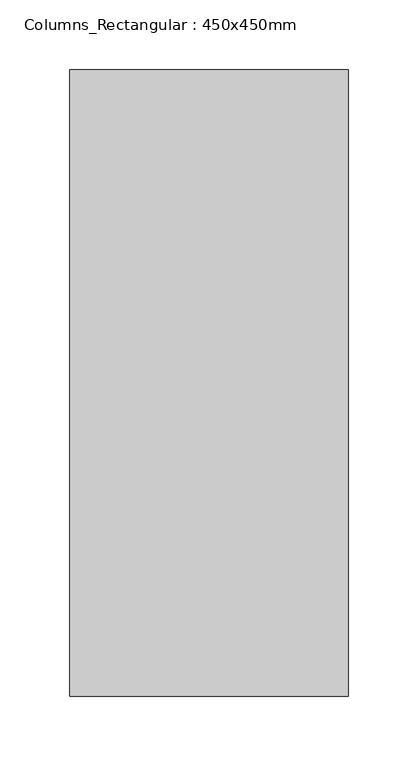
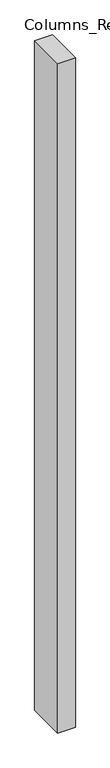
"""IFC4 building model written with IfcOpenShell, lengths in millimetres: column geometry, Columns_Rectangular : 450x450mm."""

from ifc_helpers import new_model, si_unit, frame, origin, place, context, project, spatial, polyline, outline, extrude, source, transform, mapped, element, save


def columns_rectangular_450x450mm_b98eb1ea(model_context):
    return source(origin(), model_context, "Body", "SweptSolid", [
        extrude(outline(polyline([(100.0, -225.0), (-100.0, -225.0), (-100.0, 225.0), (100.0, 225.0), (100.0, -225.0)])), frame((0.0, 0.0, 5800.0), z_axis=(0.0, 0.0, 1.0), x_axis=(1.0, 0.0, 0.0)), (0.0, 0.0, 1.0), 8000.0),
    ])


if __name__ == "__main__":
    model = new_model("IFC4")
    model_context = context("Model", 3, world=origin())
    ifc_project = project(units=[si_unit("LENGTHUNIT", "METRE", prefix="MILLI")], contexts=[model_context])
    site = spatial("IfcSite", under=ifc_project)
    building = spatial("IfcBuilding", under=site)
    placement = place(None, origin())
    columns_rectangular_450x450mm_shape = columns_rectangular_450x450mm_b98eb1ea(model_context)
    element("IfcColumn", 1, ObjectType="Columns_Rectangular : 450x450mm", at=placement, inside=building, context=model_context, shape_type="MappedRepresentation", body=[
        mapped(columns_rectangular_450x450mm_shape, transform((0.0, 0.0, 0.0), x_axis=(1.0, 0.0, 0.0), y_axis=(0.0, 1.0, 0.0), z_axis=(0.0, 0.0, 1.0))),
    ])
    save(model, "model.ifc")
